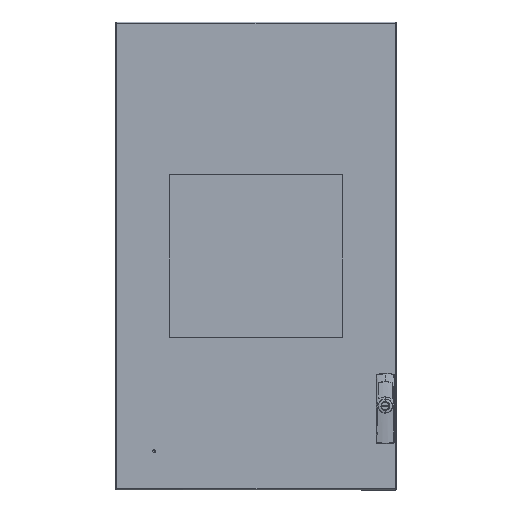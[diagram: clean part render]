
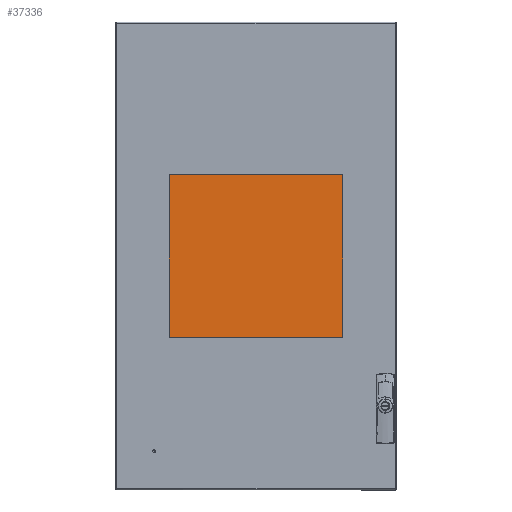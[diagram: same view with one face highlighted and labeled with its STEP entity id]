
A CAD part, top view. The second image highlights one B-rep face of the part: STEP entity #37336.
In plain terms, the highlighted planar face has unit normal (0, 0, 1) as drawn and (0, 0, -1) by its records, which use the part's own axes.
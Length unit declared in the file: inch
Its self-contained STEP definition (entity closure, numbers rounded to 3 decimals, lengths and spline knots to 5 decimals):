
#19424 = CARTESIAN_POINT ( 'NONE',  ( 7.45472, 7.00591, 0. ) ) ;
#19556 = CARTESIAN_POINT ( 'NONE',  ( -7.45472, 7.00591, 0. ) ) ;
#19557 = LINE ( 'NONE', #19556, #19605 ) ;
#19559 = DIRECTION ( 'NONE',  ( 1., 0., 0. ) ) ;
#19560 = VECTOR ( 'NONE', #19559, 39.37008 ) ;
#19561 = CARTESIAN_POINT ( 'NONE',  ( -7.45472, -7.00591, 0. ) ) ;
#19572 = CARTESIAN_POINT ( 'NONE',  ( -7.45472, -7.00591, 0. ) ) ;
#19573 = LINE ( 'NONE', #19572, #19560 ) ;
#19601 = CARTESIAN_POINT ( 'NONE',  ( -7.45472, 7.00591, 0. ) ) ;
#19604 = DIRECTION ( 'NONE',  ( 0., -1., 0. ) ) ;
#19605 = VECTOR ( 'NONE', #19604, 39.37008 ) ;
#19611 = DIRECTION ( 'NONE',  ( 0., 1., 0. ) ) ;
#19612 = VECTOR ( 'NONE', #19611, 39.37008 ) ;
#19613 = CARTESIAN_POINT ( 'NONE',  ( 7.45472, 7.00591, 0. ) ) ;
#19615 = LINE ( 'NONE', #19613, #19612 ) ;
#19651 = CARTESIAN_POINT ( 'NONE',  ( 7.45472, -7.00591, 0. ) ) ;
#19702 = DIRECTION ( 'NONE',  ( -1., 0., 0. ) ) ;
#19703 = VECTOR ( 'NONE', #19702, 39.37008 ) ;
#19704 = CARTESIAN_POINT ( 'NONE',  ( -7.45472, 7.00591, 0. ) ) ;
#19708 = DIRECTION ( 'NONE',  ( 1., 0., 0. ) ) ;
#19710 = LINE ( 'NONE', #19704, #19703 ) ;
#19716 = FACE_OUTER_BOUND ( 'NONE', #37337, .T. ) ;
#19717 = PLANE ( 'NONE',  #19719 ) ;
#19718 = DIRECTION ( 'NONE',  ( 0., 0., 1. ) ) ;
#19719 = AXIS2_PLACEMENT_3D ( 'NONE', #19729, #19718, #19708 ) ;
#19729 = CARTESIAN_POINT ( 'NONE',  ( -7.45472, 7.00591, 0. ) ) ;
#37167 = VERTEX_POINT ( 'NONE', #19424 ) ;
#37237 = EDGE_CURVE ( 'NONE', #37239, #37297, #19573, .T. ) ;
#37239 = VERTEX_POINT ( 'NONE', #19561 ) ;
#37250 = EDGE_CURVE ( 'NONE', #37253, #37239, #19557, .T. ) ;
#37253 = VERTEX_POINT ( 'NONE', #19601 ) ;
#37284 = EDGE_CURVE ( 'NONE', #37297, #37167, #19615, .T. ) ;
#37297 = VERTEX_POINT ( 'NONE', #19651 ) ;
#37327 = ORIENTED_EDGE ( 'NONE', *, *, #37284, .F. ) ;
#37329 = ORIENTED_EDGE ( 'NONE', *, *, #37250, .F. ) ;
#37333 = ORIENTED_EDGE ( 'NONE', *, *, #37237, .F. ) ;
#37335 = ORIENTED_EDGE ( 'NONE', *, *, #37340, .F. ) ;
#37336 = ADVANCED_FACE ( 'Face1', ( #19716 ), #19717, .F. ) ;
#37337 = EDGE_LOOP ( 'NONE', ( #37329, #37335, #37327, #37333 ) ) ;
#37340 = EDGE_CURVE ( 'NONE', #37167, #37253, #19710, .T. ) ;
